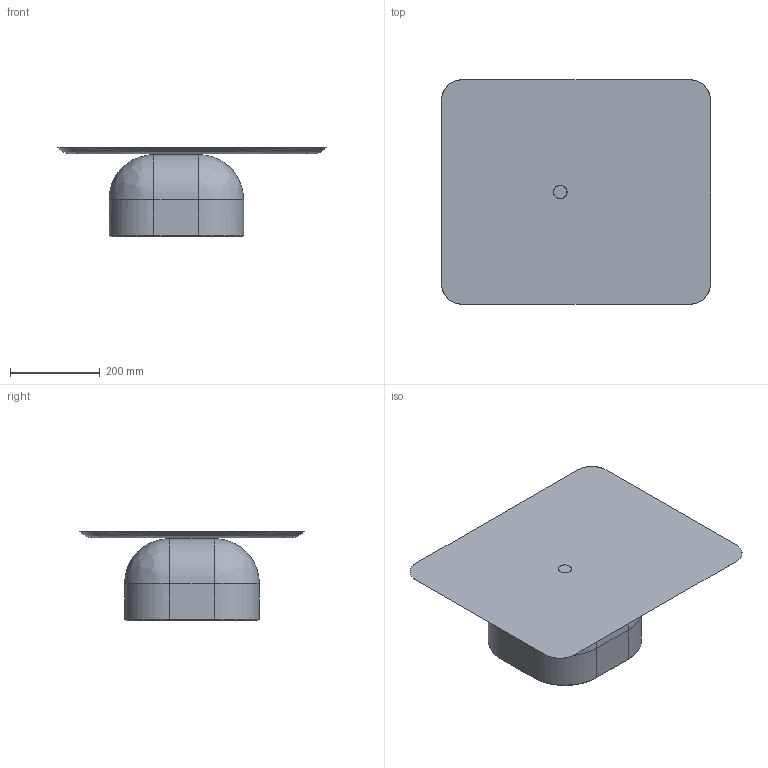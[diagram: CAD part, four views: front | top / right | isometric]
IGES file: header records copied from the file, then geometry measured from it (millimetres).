
Global section: file name: C:\Users\Timo Mikkonen\Desktop\Nikari 3d. tiedostot rfa\COFFEE TABLES\iges\April 1 Coffee Table 600x500 H200.igs; native system: Rhinoceros ( Sep  8 2025 ); preprocessor: Trout Lake IGES 012 Sep  8 2025; date: 250924.061032; units: millimetre
Bounding box: 600 x 500 x 200 mm (x, y, z)
Surface area: 1005366 mm2 (no closed solid volume)
Topology: 0 solids, 0 shells, 64 faces, 329 edges, 328 vertices
Faces by surface type: bspline 64
